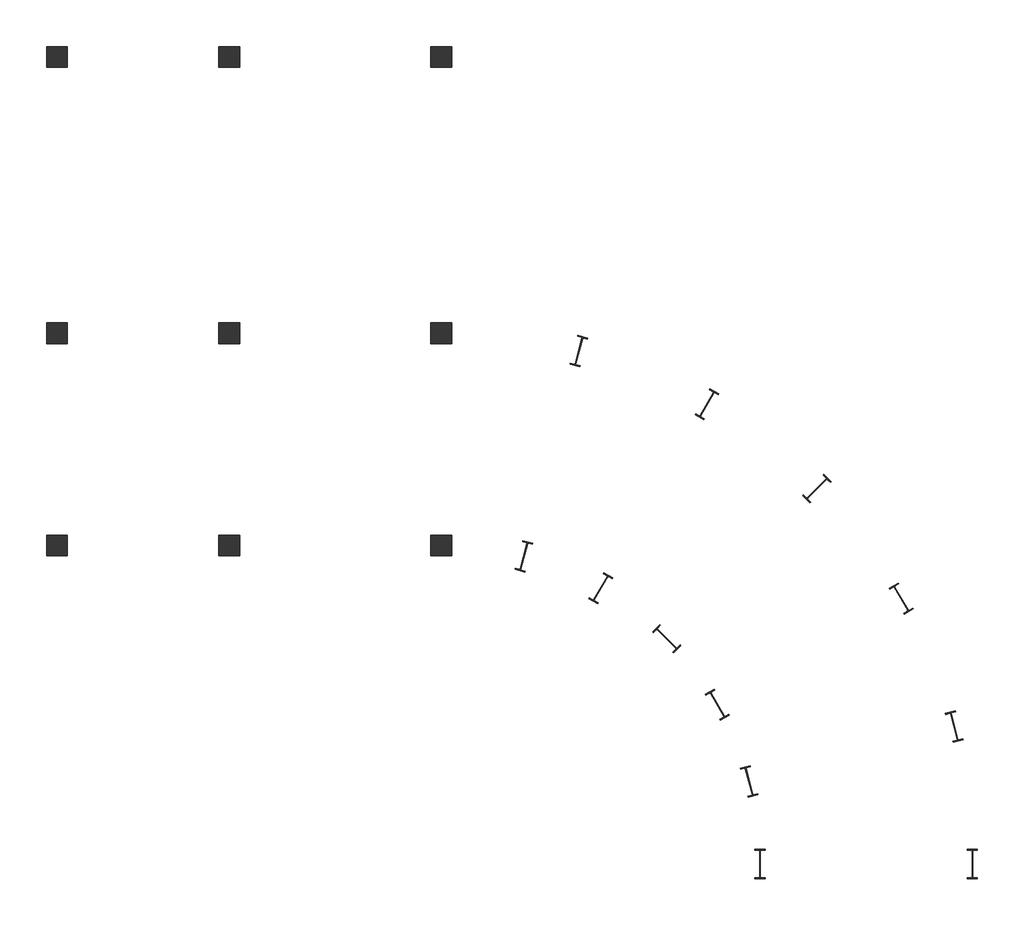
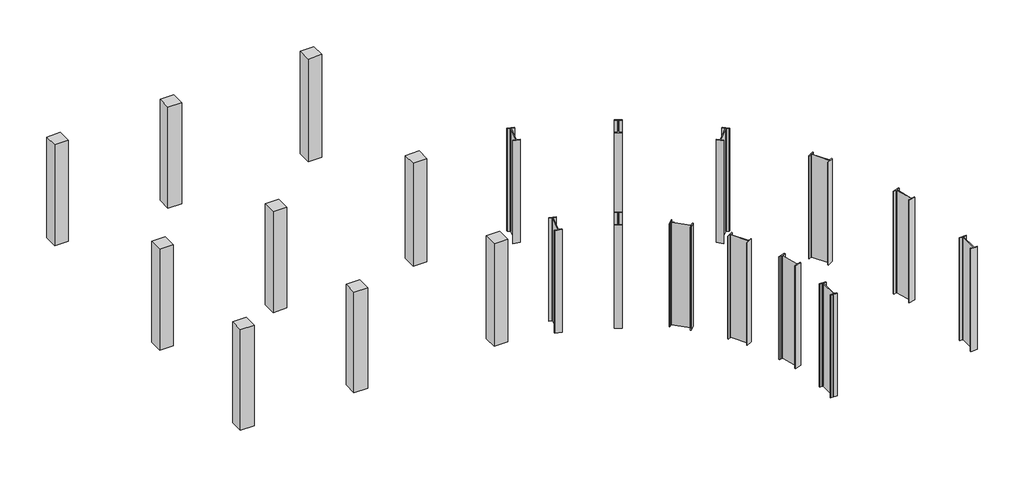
# One storey: 21 columns.
"""IFC4 building model written with IfcOpenShell, lengths in millimetres."""

from ifc_helpers import new_model, si_unit, frame, origin, place, context, project, spatial, polyline, outline, extrude, transform, mapped, element, save
from components import w840x251_bc5ce94e

model = new_model("IFC4")

# Units and contexts
model_context = context("Model", 3, world=origin())
ifc_project = project(units=[si_unit("LENGTHUNIT", "METRE", prefix="MILLI")], contexts=[model_context])

# Site, building, storey
site = spatial("IfcSite", under=ifc_project)
building = spatial("IfcBuilding", under=site)
storey = spatial("IfcBuildingStorey", under=building, Name="T.O.F", Elevation=-1677.0)

# Columns
placement = place(None, origin())
element("IfcColumn", 1, ObjectType="M_Concrete-Rectangular-Column : 600 x 600mm", at=placement, inside=storey, context=model_context, shape_type="SweptSolid", body=[
    extrude(outline(polyline([(-21844.300634, -10058.8363965), (-21844.300634, -9458.8363965), (-21244.300634, -9458.8363965), (-21244.300634, -10058.8363965), (-21844.300634, -10058.8363965)])), frame((0.0, 0.0, -1677.0), z_axis=(0.0, 0.0, 1.0), x_axis=(1.0, 0.0, 0.0)), (0.0, 0.0, 1.0), 4635.0),
])
element("IfcColumn", 2, ObjectType="M_Concrete-Rectangular-Column : 600 x 600mm", at=placement, inside=storey, context=model_context, shape_type="SweptSolid", body=[
    extrude(outline(polyline([(-21844.300634, -3962.8363965), (-21844.300634, -3362.8363965), (-21244.300634, -3362.8363965), (-21244.300634, -3962.8363965), (-21844.300634, -3962.8363965)])), frame((0.0, 0.0, -1677.0), z_axis=(0.0, 0.0, 1.0), x_axis=(1.0, 0.0, 0.0)), (0.0, 0.0, 1.0), 4635.0),
])
element("IfcColumn", 3, ObjectType="M_Concrete-Rectangular-Column : 600 x 600mm", at=placement, inside=storey, context=model_context, shape_type="SweptSolid", body=[
    extrude(outline(polyline([(-21844.300634, 3962.1636035), (-21844.300634, 4562.1636035), (-21244.300634, 4562.1636035), (-21244.300634, 3962.1636035), (-21844.300634, 3962.1636035)])), frame((0.0, 0.0, -1677.0), z_axis=(0.0, 0.0, 1.0), x_axis=(1.0, 0.0, 0.0)), (0.0, 0.0, 1.0), 4635.0),
])
element("IfcColumn", 4, ObjectType="M_Concrete-Rectangular-Column : 600 x 600mm", at=placement, inside=storey, context=model_context, shape_type="SweptSolid", body=[
    extrude(outline(polyline([(-16904.9035319, -10058.8363965), (-16904.9035319, -9458.8363965), (-16304.9035319, -9458.8363965), (-16304.9035319, -10058.8363965), (-16904.9035319, -10058.8363965)])), frame((0.0, 0.0, -1677.0), z_axis=(0.0, 0.0, 1.0), x_axis=(1.0, 0.0, 0.0)), (0.0, 0.0, 1.0), 4635.0),
])
element("IfcColumn", 5, ObjectType="M_Concrete-Rectangular-Column : 600 x 600mm", at=placement, inside=storey, context=model_context, shape_type="SweptSolid", body=[
    extrude(outline(polyline([(-16904.9035319, -3962.8363965), (-16904.9035319, -3362.8363965), (-16304.9035319, -3362.8363965), (-16304.9035319, -3962.8363965), (-16904.9035319, -3962.8363965)])), frame((0.0, 0.0, -1677.0), z_axis=(0.0, 0.0, 1.0), x_axis=(1.0, 0.0, 0.0)), (0.0, 0.0, 1.0), 4635.0),
])
element("IfcColumn", 6, ObjectType="M_Concrete-Rectangular-Column : 600 x 600mm", at=placement, inside=storey, context=model_context, shape_type="SweptSolid", body=[
    extrude(outline(polyline([(-16904.9035319, 3962.1636035), (-16904.9035319, 4562.1636035), (-16304.9035319, 4562.1636035), (-16304.9035319, 3962.1636035), (-16904.9035319, 3962.1636035)])), frame((0.0, 0.0, -1677.0), z_axis=(0.0, 0.0, 1.0), x_axis=(1.0, 0.0, 0.0)), (0.0, 0.0, 1.0), 4635.0),
])
element("IfcColumn", 7, ObjectType="M_Concrete-Rectangular-Column : 600 x 600mm", at=placement, inside=storey, context=model_context, shape_type="SweptSolid", body=[
    extrude(outline(polyline([(-10808.9035319, -10058.8363965), (-10808.9035319, -9458.8363965), (-10208.9035319, -9458.8363965), (-10208.9035319, -10058.8363965), (-10808.9035319, -10058.8363965)])), frame((0.0, 0.0, -1677.0), z_axis=(0.0, 0.0, 1.0), x_axis=(1.0, 0.0, 0.0)), (0.0, 0.0, 1.0), 4725.0),
])
element("IfcColumn", 8, ObjectType="M_Concrete-Rectangular-Column : 600 x 600mm", at=placement, inside=storey, context=model_context, shape_type="SweptSolid", body=[
    extrude(outline(polyline([(-10808.9035319, -3962.8363965), (-10808.9035319, -3362.8363965), (-10208.9035319, -3362.8363965), (-10208.9035319, -3962.8363965), (-10808.9035319, -3962.8363965)])), frame((0.0, 0.0, -1677.0), z_axis=(0.0, 0.0, 1.0), x_axis=(1.0, 0.0, 0.0)), (0.0, 0.0, 1.0), 4725.0),
])
element("IfcColumn", 9, ObjectType="M_Concrete-Rectangular-Column : 600 x 600mm", at=placement, inside=storey, context=model_context, shape_type="SweptSolid", body=[
    extrude(outline(polyline([(-10808.9035319, 3962.1636035), (-10808.9035319, 4562.1636035), (-10208.9035319, 4562.1636035), (-10208.9035319, 3962.1636035), (-10808.9035319, 3962.1636035)])), frame((0.0, 0.0, -1677.0), z_axis=(0.0, 0.0, 1.0), x_axis=(1.0, 0.0, 0.0)), (0.0, 0.0, 1.0), 4725.0),
])
w840x251_shape = w840x251_bc5ce94e(model_context)
element("IfcColumn", 10, ObjectType="M_W-Wide Flange-Column : W840X251", at=placement, inside=storey, context=model_context, shape_type="MappedRepresentation", body=[
    mapped(w840x251_shape, transform((4211.8060608, -14958.4341491, 0.0), x_axis=(-0.9659258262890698, -0.25881904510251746, 0.0), y_axis=(0.25881904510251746, -0.9659258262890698, 0.0), z_axis=(0.0, 0.0, 1.0))),
])
element("IfcColumn", 11, ObjectType="M_W-Wide Flange-Column : W840X251", at=placement, inside=storey, context=model_context, shape_type="MappedRepresentation", body=[
    mapped(w840x251_shape, transform((2689.3236218, -11282.8363965, 0.0), x_axis=(-0.8660254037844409, -0.49999999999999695, 0.0), y_axis=(0.49999999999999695, -0.8660254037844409, 0.0), z_axis=(0.0, 0.0, 1.0))),
])
element("IfcColumn", 12, ObjectType="M_W-Wide Flange-Column : W840X251", at=placement, inside=storey, context=model_context, shape_type="MappedRepresentation", body=[
    mapped(w840x251_shape, transform((267.4038134, -8126.5290512, 0.0), x_axis=(0.7071067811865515, -0.7071067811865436, 0.0), y_axis=(0.7071067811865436, 0.7071067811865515, 0.0), z_axis=(0.0, 0.0, 1.0))),
])
element("IfcColumn", 13, ObjectType="M_W-Wide Flange-Column : W840X251", at=placement, inside=storey, context=model_context, shape_type="MappedRepresentation", body=[
    mapped(w840x251_shape, transform((-2888.9035319, -5704.6092428, 0.0), x_axis=(0.8660254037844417, -0.49999999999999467, 0.0), y_axis=(0.49999999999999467, 0.8660254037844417, 0.0), z_axis=(0.0, 0.0, 1.0))),
])
element("IfcColumn", 14, ObjectType="M_W-Wide Flange-Column : W840X251", at=placement, inside=storey, context=model_context, shape_type="MappedRepresentation", body=[
    mapped(w840x251_shape, transform((-6564.5012845, -4182.1268039, 0.0), x_axis=(0.9659258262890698, -0.25881904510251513, 0.0), y_axis=(0.25881904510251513, 0.9659258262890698, 0.0), z_axis=(0.0, 0.0, 1.0))),
])
element("IfcColumn", 15, ObjectType="M_W-Wide Flange-Column : W840X251", at=placement, inside=storey, context=model_context, shape_type="MappedRepresentation", body=[
    mapped(w840x251_shape, transform((-1676.4777763, -16536.1950481, 0.0), x_axis=(-0.9659258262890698, -0.25881904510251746, 0.0), y_axis=(0.25881904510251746, -0.9659258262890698, 0.0), z_axis=(0.0, 0.0, 1.0))),
])
element("IfcColumn", 16, ObjectType="M_W-Wide Flange-Column : W840X251", at=placement, inside=storey, context=model_context, shape_type="MappedRepresentation", body=[
    mapped(w840x251_shape, transform((-2589.9672396, -14330.8363965, 0.0), x_axis=(-0.8660254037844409, -0.49999999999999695, 0.0), y_axis=(0.49999999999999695, -0.8660254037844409, 0.0), z_axis=(0.0, 0.0, 1.0))),
])
element("IfcColumn", 17, ObjectType="M_W-Wide Flange-Column : W840X251", at=placement, inside=storey, context=model_context, shape_type="MappedRepresentation", body=[
    mapped(w840x251_shape, transform((-4043.1191247, -12437.0519893, 0.0), x_axis=(0.7071067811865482, 0.7071067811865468, 0.0), y_axis=(-0.7071067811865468, 0.7071067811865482, 0.0), z_axis=(0.0, 0.0, 1.0))),
])
element("IfcColumn", 18, ObjectType="M_W-Wide Flange-Column : W840X251", at=placement, inside=storey, context=model_context, shape_type="MappedRepresentation", body=[
    mapped(w840x251_shape, transform((-5936.9035319, -10983.9001043, 0.0), x_axis=(0.8660254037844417, -0.49999999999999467, 0.0), y_axis=(0.49999999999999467, 0.8660254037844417, 0.0), z_axis=(0.0, 0.0, 1.0))),
])
element("IfcColumn", 19, ObjectType="M_W-Wide Flange-Column : W840X251", at=placement, inside=storey, context=model_context, shape_type="MappedRepresentation", body=[
    mapped(w840x251_shape, transform((-8142.2621834, -10070.4106409, 0.0), x_axis=(0.9659258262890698, -0.25881904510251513, 0.0), y_axis=(0.25881904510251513, 0.9659258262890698, 0.0), z_axis=(0.0, 0.0, 1.0))),
])
element("IfcColumn", 20, ObjectType="M_W-Wide Flange-Column : W840X251", at=placement, inside=storey, context=model_context, shape_type="MappedRepresentation", body=[
    mapped(w840x251_shape, transform((4731.0964681, -18902.8363965, 0.0), x_axis=(1.0, 0.0, 0.0), y_axis=(0.0, 1.0, 0.0), z_axis=(0.0, 0.0, 1.0))),
])
element("IfcColumn", 21, ObjectType="M_W-Wide Flange-Column : W840X251", at=placement, inside=storey, context=model_context, shape_type="MappedRepresentation", body=[
    mapped(w840x251_shape, transform((-1364.9035319, -18902.8363965, 0.0), x_axis=(1.0, 0.0, 0.0), y_axis=(0.0, 1.0, 0.0), z_axis=(0.0, 0.0, 1.0))),
])

save(model, "model.ifc")
